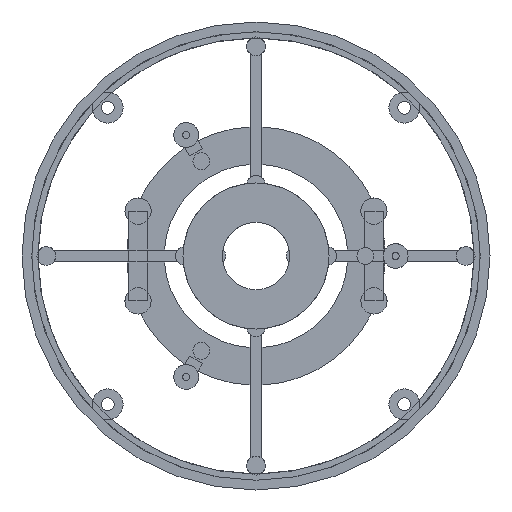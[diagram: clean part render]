
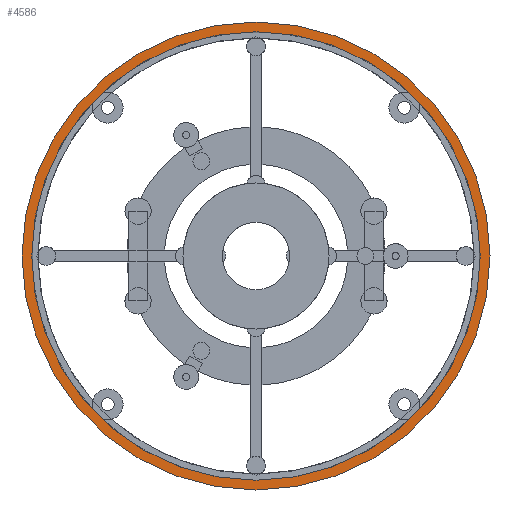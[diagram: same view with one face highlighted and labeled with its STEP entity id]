
A CAD part, front view. The second image highlights one B-rep face of the part: STEP entity #4586.
In plain terms, the highlighted planar face has unit normal (0, -1, 0).
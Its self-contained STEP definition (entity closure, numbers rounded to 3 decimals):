
#795=FACE_BOUND('',#1140,.T.);
#839=FACE_OUTER_BOUND('',#1139,.T.);
#1139=EDGE_LOOP('',(#3024));
#1140=EDGE_LOOP('',(#3025));
#1462=CIRCLE('',#4902,59.9);
#1494=CIRCLE('',#4948,62.5);
#1821=VERTEX_POINT('',#7249);
#1852=VERTEX_POINT('',#7340);
#2238=EDGE_CURVE('',#1821,#1821,#1462,.T.);
#2284=EDGE_CURVE('',#1852,#1852,#1494,.T.);
#3024=ORIENTED_EDGE('',*,*,#2284,.F.);
#3025=ORIENTED_EDGE('',*,*,#2238,.T.);
#4363=PLANE('',#4947);
#4586=ADVANCED_FACE('',(#839,#795),#4363,.F.);
#4902=AXIS2_PLACEMENT_3D('',#7250,#5586,#5587);
#4947=AXIS2_PLACEMENT_3D('',#7339,#5690,#5691);
#4948=AXIS2_PLACEMENT_3D('',#7341,#5692,#5693);
#5586=DIRECTION('center_axis',(0.,1.,0.));
#5587=DIRECTION('ref_axis',(0.,0.,1.));
#5690=DIRECTION('center_axis',(0.,1.,0.));
#5691=DIRECTION('ref_axis',(0.,0.,1.));
#5692=DIRECTION('center_axis',(0.,1.,0.));
#5693=DIRECTION('ref_axis',(0.,0.,1.));
#7249=CARTESIAN_POINT('',(0.,-102.5,393.1));
#7250=CARTESIAN_POINT('Origin',(0.,-102.5,453.));
#7339=CARTESIAN_POINT('Origin',(0.,-102.5,453.));
#7340=CARTESIAN_POINT('',(0.,-102.5,390.5));
#7341=CARTESIAN_POINT('Origin',(0.,-102.5,453.));
